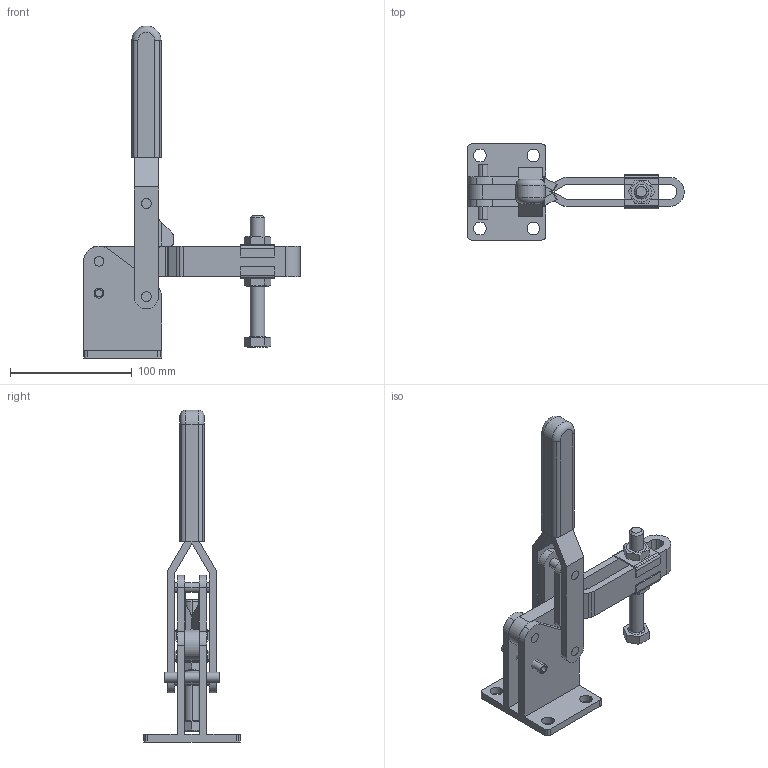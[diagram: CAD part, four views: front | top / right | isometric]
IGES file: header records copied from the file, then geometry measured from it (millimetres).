
Start section:  Level              Description ========  ================================        1  SANDFIELD
Global section: file name: D:/WORK/SANDFIELD/sandfield_3d/Vertical_Action/MG/Mg1/mg1ub.IGS; native system: AutoCAD-13_c4a_Mh (HwLock) (Microsoft Windows NT Version 4.0 (x86)); preprocessor: AutoCAD IGES Translator R13.1c2 (Jan 23 1997) from Autodesk, Inc.; author: ProCAD; organization: Sandfield Eng Co.; date: 990520.143524; units: millimetre
Bounding box: 177.98 x 79 x 273 mm (x, y, z)
Volume: 281041.1 mm3; surface area: 106878.3 mm2
Topology: 16 solids, 16 shells, 286 faces, 759 edges, 506 vertices
Faces by surface type: bspline 102, plane 88, cylinder 86, torus 8, cone 2
